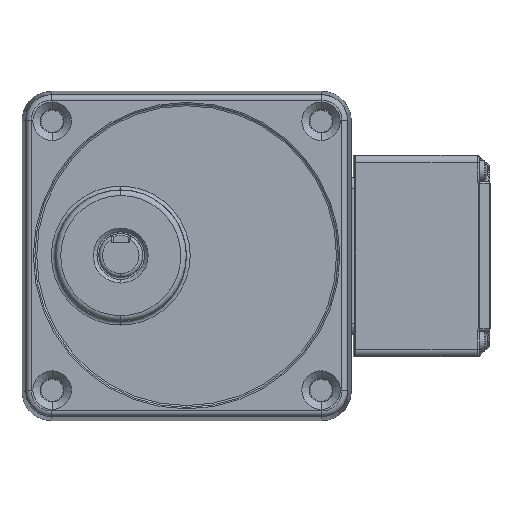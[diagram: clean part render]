
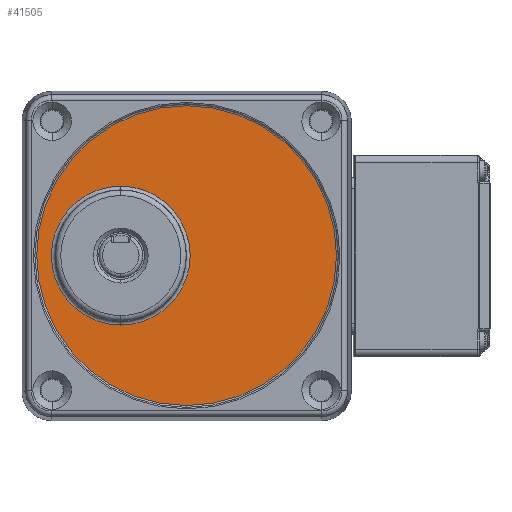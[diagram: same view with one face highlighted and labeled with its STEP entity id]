
A CAD part, top view. The second image highlights one B-rep face of the part: STEP entity #41505.
In plain terms, the highlighted planar face has unit normal (0, 0, 1) as drawn and (1, 0, 0) by its records, which use the part's own axes.
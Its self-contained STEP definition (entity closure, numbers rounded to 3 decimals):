
#23 = CIRCLE ( 'NONE', #24244, 18.983 ) ;
#3884 = DIRECTION ( 'NONE',  ( 1., 0., 0. ) ) ;
#4015 = EDGE_LOOP ( 'NONE', ( #29615, #44268 ) ) ;
#4814 = DIRECTION ( 'NONE',  ( 0., 1., 0. ) ) ;
#7118 = EDGE_CURVE ( 'NONE', #14188, #50563, #33944, .T. ) ;
#8125 = CARTESIAN_POINT ( 'NONE',  ( 2697.792, -756.175, 18. ) ) ;
#8605 = PLANE ( 'NONE',  #46871 ) ;
#9664 = EDGE_CURVE ( 'NONE', #47986, #45356, #22797, .T. ) ;
#14188 = VERTEX_POINT ( 'NONE', #8125 ) ;
#15205 = ORIENTED_EDGE ( 'NONE', *, *, #34955, .F. ) ;
#16132 = DIRECTION ( 'NONE',  ( 0., 1., 0. ) ) ;
#17097 = CARTESIAN_POINT ( 'NONE',  ( 2697.792, -794.14, 18. ) ) ;
#18394 = EDGE_CURVE ( 'NONE', #45356, #47986, #57467, .T. ) ;
#18872 = DIRECTION ( 'NONE',  ( 0., 1., 0. ) ) ;
#20856 = CARTESIAN_POINT ( 'NONE',  ( 2697.792, -775.157, 0. ) ) ;
#22595 = CARTESIAN_POINT ( 'NONE',  ( 2697.792, -734.166, 0. ) ) ;
#22797 = CIRCLE ( 'NONE', #39989, 40.991 ) ;
#23543 = DIRECTION ( 'NONE',  ( -1., 0., 0. ) ) ;
#24244 = AXIS2_PLACEMENT_3D ( 'NONE', #27670, #42221, #32738 ) ;
#24875 = AXIS2_PLACEMENT_3D ( 'NONE', #28067, #31865, #18872 ) ;
#27670 = CARTESIAN_POINT ( 'NONE',  ( 2697.792, -775.157, 18. ) ) ;
#27885 = CARTESIAN_POINT ( 'NONE',  ( 2697.792, -775.157, 0. ) ) ;
#28067 = CARTESIAN_POINT ( 'NONE',  ( 2697.792, -775.157, 18. ) ) ;
#29118 = ORIENTED_EDGE ( 'NONE', *, *, #7118, .F. ) ;
#29615 = ORIENTED_EDGE ( 'NONE', *, *, #18394, .F. ) ;
#31865 = DIRECTION ( 'NONE',  ( 1., 0., 0. ) ) ;
#32639 = FACE_OUTER_BOUND ( 'NONE', #4015, .T. ) ;
#32738 = DIRECTION ( 'NONE',  ( 0., -1., 0. ) ) ;
#33944 = CIRCLE ( 'NONE', #24875, 18.983 ) ;
#34943 = CARTESIAN_POINT ( 'NONE',  ( 2697.792, -816.149, 0. ) ) ;
#34955 = EDGE_CURVE ( 'NONE', #50563, #14188, #23, .T. ) ;
#39989 = AXIS2_PLACEMENT_3D ( 'NONE', #20856, #40151, #16132 ) ;
#40151 = DIRECTION ( 'NONE',  ( -1., 0., 0. ) ) ;
#41505 = ADVANCED_FACE ( 'NONE', ( #32639, #51904 ), #8605, .T. ) ;
#42221 = DIRECTION ( 'NONE',  ( 1., 0., 0. ) ) ;
#44268 = ORIENTED_EDGE ( 'NONE', *, *, #9664, .F. ) ;
#45356 = VERTEX_POINT ( 'NONE', #34943 ) ;
#46871 = AXIS2_PLACEMENT_3D ( 'NONE', #27885, #3884, #4814 ) ;
#47351 = AXIS2_PLACEMENT_3D ( 'NONE', #61112, #23543, #47559 ) ;
#47559 = DIRECTION ( 'NONE',  ( 0., -1., 0. ) ) ;
#47986 = VERTEX_POINT ( 'NONE', #22595 ) ;
#50563 = VERTEX_POINT ( 'NONE', #17097 ) ;
#51904 = FACE_BOUND ( 'NONE', #55778, .T. ) ;
#55778 = EDGE_LOOP ( 'NONE', ( #15205, #29118 ) ) ;
#57467 = CIRCLE ( 'NONE', #47351, 40.991 ) ;
#61112 = CARTESIAN_POINT ( 'NONE',  ( 2697.792, -775.157, 0. ) ) ;
